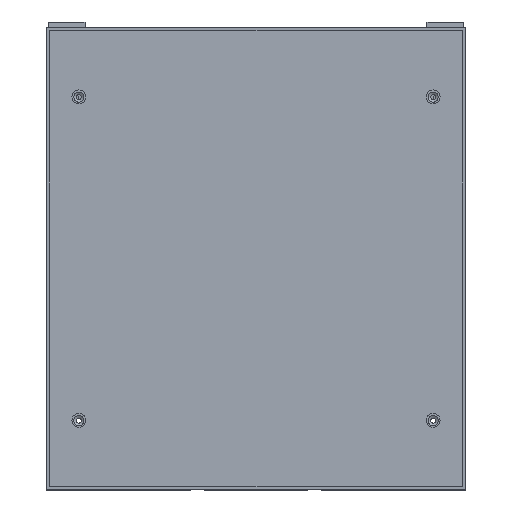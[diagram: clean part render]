
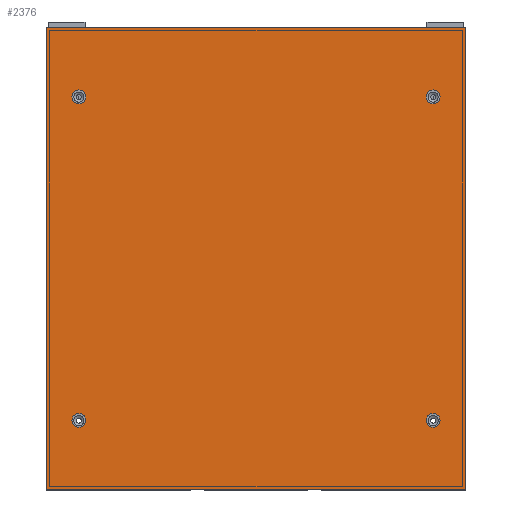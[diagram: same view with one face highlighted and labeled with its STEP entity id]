
A CAD part, top view. The second image highlights one B-rep face of the part: STEP entity #2376.
In plain terms, the highlighted planar face has unit normal (0, 0, 1).
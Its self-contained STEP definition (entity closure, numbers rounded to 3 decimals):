
#296=FACE_BOUND('',#4403,.T.);
#297=FACE_BOUND('',#4404,.T.);
#298=FACE_BOUND('',#4405,.T.);
#299=FACE_BOUND('',#4406,.T.);
#300=FACE_BOUND('',#4407,.T.);
#958=PLANE('',#16541);
#1548=CIRCLE('',#16537,2.25);
#1549=CIRCLE('',#16538,2.25);
#1550=CIRCLE('',#16539,2.25);
#1551=CIRCLE('',#16540,2.25);
#2376=ADVANCED_FACE('',(#296,#297,#298,#299,#300),#958,.F.);
#4403=EDGE_LOOP('',(#8878));
#4404=EDGE_LOOP('',(#8879));
#4405=EDGE_LOOP('',(#8880));
#4406=EDGE_LOOP('',(#8881));
#4407=EDGE_LOOP('',(#8882,#8883,#8884,#8885));
#5616=LINE('',#24093,#6776);
#5680=LINE('',#24248,#6840);
#5870=LINE('',#24890,#7030);
#5871=LINE('',#24891,#7031);
#6776=VECTOR('',#18455,1.);
#6840=VECTOR('',#18593,1.);
#7030=VECTOR('',#19283,1.);
#7031=VECTOR('',#19284,1.);
#8878=ORIENTED_EDGE('',*,*,#14493,.F.);
#8879=ORIENTED_EDGE('',*,*,#14494,.F.);
#8880=ORIENTED_EDGE('',*,*,#14495,.F.);
#8881=ORIENTED_EDGE('',*,*,#14496,.F.);
#8882=ORIENTED_EDGE('',*,*,#14180,.F.);
#8883=ORIENTED_EDGE('',*,*,#14497,.F.);
#8884=ORIENTED_EDGE('',*,*,#14098,.F.);
#8885=ORIENTED_EDGE('',*,*,#14498,.F.);
#12479=VERTEX_POINT('',#24092);
#12480=VERTEX_POINT('',#24094);
#12533=VERTEX_POINT('',#24247);
#12534=VERTEX_POINT('',#24249);
#12732=VERTEX_POINT('',#24883);
#12733=VERTEX_POINT('',#24885);
#12734=VERTEX_POINT('',#24887);
#12735=VERTEX_POINT('',#24889);
#14098=EDGE_CURVE('',#12479,#12480,#5616,.T.);
#14180=EDGE_CURVE('',#12533,#12534,#5680,.T.);
#14493=EDGE_CURVE('',#12732,#12732,#1548,.T.);
#14494=EDGE_CURVE('',#12733,#12733,#1549,.T.);
#14495=EDGE_CURVE('',#12734,#12734,#1550,.T.);
#14496=EDGE_CURVE('',#12735,#12735,#1551,.T.);
#14497=EDGE_CURVE('',#12480,#12533,#5870,.T.);
#14498=EDGE_CURVE('',#12534,#12479,#5871,.T.);
#16537=AXIS2_PLACEMENT_3D('',#24882,#19275,#19276);
#16538=AXIS2_PLACEMENT_3D('',#24884,#19277,#19278);
#16539=AXIS2_PLACEMENT_3D('',#24886,#19279,#19280);
#16540=AXIS2_PLACEMENT_3D('',#24888,#19281,#19282);
#16541=AXIS2_PLACEMENT_3D('',#24892,#19285,#19286);
#18455=DIRECTION('',(0.,1.,0.));
#18593=DIRECTION('',(0.,-1.,0.));
#19275=DIRECTION('',(0.,0.,1.));
#19276=DIRECTION('',(-1.,0.,0.));
#19277=DIRECTION('',(0.,0.,1.));
#19278=DIRECTION('',(1.,0.,0.));
#19279=DIRECTION('',(0.,0.,1.));
#19280=DIRECTION('',(-1.,0.,0.));
#19281=DIRECTION('',(0.,0.,1.));
#19282=DIRECTION('',(1.,0.,0.));
#19283=DIRECTION('',(1.,0.,0.));
#19284=DIRECTION('',(-1.,0.,0.));
#19285=DIRECTION('',(0.,0.,-1.));
#19286=DIRECTION('',(1.,0.,0.));
#24092=CARTESIAN_POINT('',(-68.,-78.,193.));
#24093=CARTESIAN_POINT('',(-68.,72.,193.));
#24094=CARTESIAN_POINT('',(-68.,72.,193.));
#24247=CARTESIAN_POINT('',(68.,72.,193.));
#24248=CARTESIAN_POINT('',(68.,72.,193.));
#24249=CARTESIAN_POINT('',(68.,-78.,193.));
#24882=CARTESIAN_POINT('',(-57.5,-55.5,193.));
#24883=CARTESIAN_POINT('',(-59.75,-55.5,193.));
#24884=CARTESIAN_POINT('',(57.5,-55.5,193.));
#24885=CARTESIAN_POINT('',(59.75,-55.5,193.));
#24886=CARTESIAN_POINT('',(57.5,49.5,193.));
#24887=CARTESIAN_POINT('',(55.25,49.5,193.));
#24888=CARTESIAN_POINT('',(-57.5,49.5,193.));
#24889=CARTESIAN_POINT('',(-55.25,49.5,193.));
#24890=CARTESIAN_POINT('',(68.,72.,193.));
#24891=CARTESIAN_POINT('',(68.,-78.,193.));
#24892=CARTESIAN_POINT('',(0.,-3.,193.));
